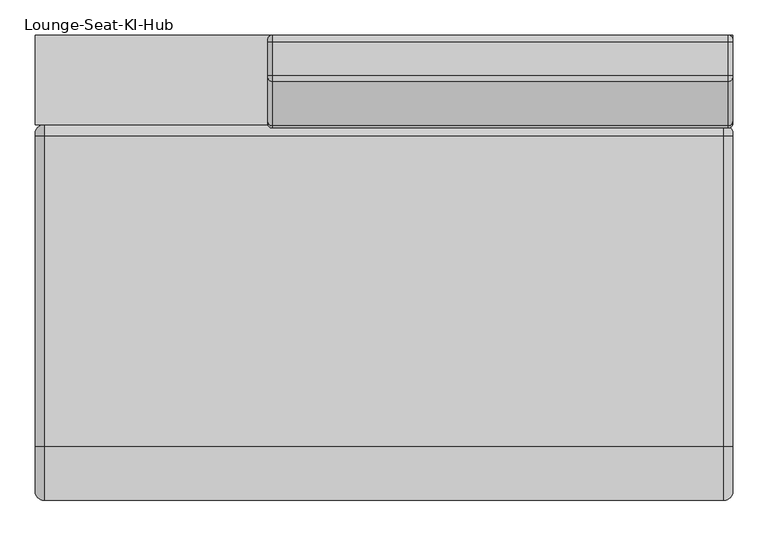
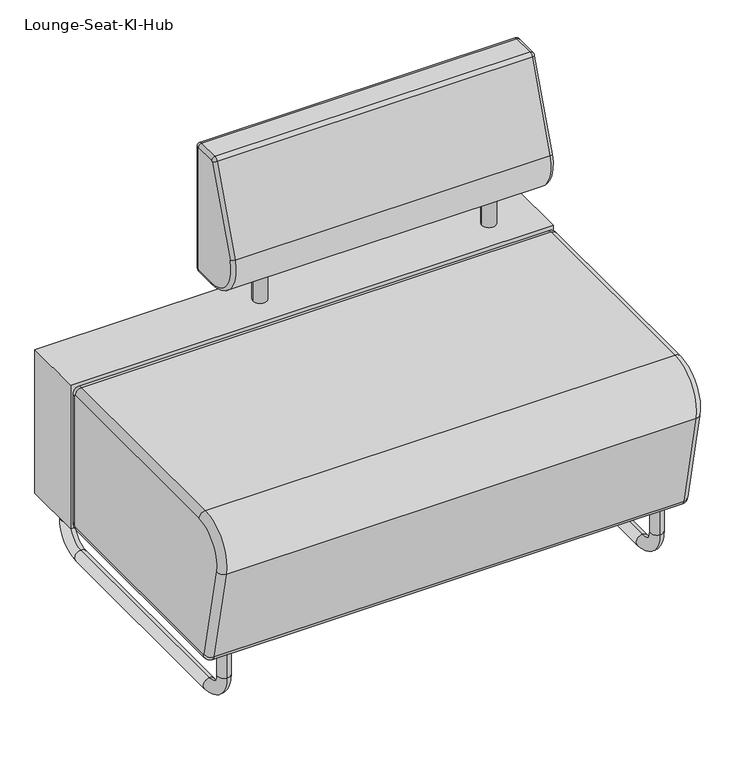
"""IFC4 building model written with IfcOpenShell, lengths in millimetres: furniture geometry."""

from ifc_helpers import new_model, si_unit, point, frame, frame_2d, origin, place, context, project, spatial, polyline, circle_curve, ellipse_curve, trimmed, segment, composite_curve, outline, extrude, source, transform, mapped, element, save
from ifc_brep_helpers import plane_surface, cylinder_surface, revolved_surface, advanced_brep


def lounge_seat_ki_hub_ef02d1cb(model_context):
    return source(origin(), model_context, "Body", "SolidModel", [
        extrude(outline(composite_curve([segment(trimmed(circle_curve(frame_2d((400.05, 266.7)), 14.2875), [point((385.7625, 266.7))], [point((414.3375, 266.7))], False, "CARTESIAN"), True, "CONTINUOUS"), segment(trimmed(circle_curve(frame_2d((400.05, 266.7)), 14.2875), [point((414.3375, 266.7))], [point((385.7625, 266.7))], False, "CARTESIAN"), True, "CONTINUOUS")], self_intersect=False)), frame((0.0, 0.0, 431.8), z_axis=(0.0, 0.0, 1.0), x_axis=(1.0, 0.0, 0.0)), (0.0, 0.0, 1.0), 63.5),
        extrude(outline(composite_curve([segment(trimmed(circle_curve(frame_2d((-69.85, 266.7)), 14.2875), [point((-84.1375, 266.7))], [point((-55.5625, 266.7))], False, "CARTESIAN"), True, "CONTINUOUS"), segment(trimmed(circle_curve(frame_2d((-69.85, 266.7)), 14.2875), [point((-55.5625, 266.7))], [point((-84.1375, 266.7))], False, "CARTESIAN"), True, "CONTINUOUS")], self_intersect=False)), frame((0.0, 0.0, 431.8), z_axis=(0.0, 0.0, 1.0), x_axis=(1.0, 0.0, 0.0)), (0.0, 0.0, 1.0), 63.5),
        advanced_brep(
        [(495.3, 274.6375, 495.3), (495.3, 207.4933705, 584.4032693), (488.95, 201.3893588, 586.1535665), (488.95, 274.6375, 488.95), (-158.75, 274.6375, 488.95), (-158.75, 201.3893588, 586.1535665), (-165.1, 207.4933705, 584.4032693), (-165.1, 274.6375, 495.3), (488.95, 320.675, 488.95), (495.3, 320.675, 495.3), (-165.1, 320.675, 495.3), (-158.75, 320.675, 488.95), (488.95, 330.2, 498.475), (495.3, 323.85, 498.475), (-165.1, 323.85, 498.475), (-158.75, 330.2, 498.475), (488.95, 330.2, 758.825), (495.3, 323.85, 758.825), (-165.1, 323.85, 758.825), (-158.75, 330.2, 758.825), (488.95, 320.675, 768.35), (495.3, 320.675, 762.0), (-165.1, 320.675, 762.0), (-158.75, 320.675, 768.35), (488.95, 273.6171173, 768.35), (495.3, 273.6171173, 762.0), (-165.1, 273.6171173, 762.0), (-158.75, 273.6171173, 768.35), (488.95, 264.88726, 762.6348842), (495.3, 270.7071649, 760.0949614), (-165.1, 270.7071649, 760.0949614), (-158.75, 264.88726, 762.6348842)],
        [
            (0, 1, circle_curve(frame((495.3, 274.6375, 565.15), z_axis=(-1.0, 0.0, 0.0), x_axis=(0.0, -0.9612616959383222, 0.2756373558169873)), 69.85)),
            (1, 2, circle_curve(frame((488.95, 207.4933705, 584.4032693), z_axis=(0.0, -0.2756373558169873, -0.9612616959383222), x_axis=(0.0, 0.9612616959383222, -0.2756373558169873)), 6.35)),
            (2, 3, circle_curve(frame((488.95, 274.6375, 565.15), z_axis=(1.0, 0.0, 0.0), x_axis=(0.0, -0.9612616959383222, 0.2756373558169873)), 76.2)),
            (3, 0, circle_curve(frame((488.95, 274.6375, 495.3), z_axis=(0.0, -1.0, 0.0), x_axis=(0.0, 0.0, 1.0)), 6.35)),
            (4, 5, circle_curve(frame((-158.75, 274.6375, 565.15), z_axis=(-1.0, 0.0, 0.0), x_axis=(0.0, -0.9612616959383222, 0.2756373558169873)), 76.2)),
            (5, 6, circle_curve(frame((-158.75, 207.4933705, 584.4032693), z_axis=(0.0, -0.2756373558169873, -0.9612616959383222), x_axis=(0.0, 0.9612616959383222, -0.2756373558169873)), 6.35)),
            (6, 7, circle_curve(frame((-165.1, 274.6375, 565.15), z_axis=(1.0, 0.0, 0.0), x_axis=(0.0, -0.9612616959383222, 0.2756373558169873)), 69.85)),
            (7, 4, circle_curve(frame((-158.75, 274.6375, 495.3), z_axis=(0.0, -1.0, 0.0), x_axis=(0.0, 0.0, 1.0)), 6.35)),
            (2, 5),
            (4, 3),
            (3, 8),
            (8, 9, circle_curve(frame((488.95, 320.675, 495.3), z_axis=(0.0, -1.0, 0.0), x_axis=(0.0, 0.0, 1.0)), 6.35)),
            (9, 0),
            (7, 10),
            (10, 11, circle_curve(frame((-158.75, 320.675, 495.3), z_axis=(0.0, -1.0, 0.0), x_axis=(0.0, 0.0, 1.0)), 6.35)),
            (11, 4),
            (11, 8),
            (8, 12, circle_curve(frame((488.95, 320.675, 498.475), z_axis=(1.0, 0.0, 0.0), x_axis=(0.0, 0.0, -1.0)), 9.525)),
            (12, 13, circle_curve(frame((488.95, 323.85, 498.475), z_axis=(0.0, -1.3642707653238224e-12, -1.0), x_axis=(0.0, -1.0, 1.3642707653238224e-12)), 6.35)),
            (13, 9, circle_curve(frame((495.3, 320.675, 498.475), z_axis=(-1.0, 0.0, 0.0), x_axis=(0.0, 0.0, -1.0)), 3.175)),
            (10, 14, circle_curve(frame((-165.1, 320.675, 498.475), z_axis=(1.0, 0.0, 0.0), x_axis=(0.0, 0.0, -1.0)), 3.175)),
            (14, 15, circle_curve(frame((-158.75, 323.85, 498.475), z_axis=(0.0, 0.0, -1.0), x_axis=(0.0, -1.0, 0.0)), 6.35)),
            (15, 11, circle_curve(frame((-158.75, 320.675, 498.475), z_axis=(-1.0, 0.0, 0.0), x_axis=(0.0, 0.0, -1.0)), 9.525)),
            (15, 12),
            (12, 16),
            (16, 17, circle_curve(frame((488.95, 323.85, 758.825), z_axis=(0.0, 0.0, -1.0), x_axis=(0.0, -1.0, 0.0)), 6.35)),
            (17, 13),
            (14, 18),
            (18, 19, circle_curve(frame((-158.75, 323.85, 758.825), z_axis=(0.0, 0.0, -1.0), x_axis=(0.0, -1.0, 0.0)), 6.35)),
            (19, 15),
            (19, 16),
            (16, 20, circle_curve(frame((488.95, 320.675, 758.825), z_axis=(1.0, 0.0, 0.0), x_axis=(0.0, 1.0, 0.0)), 9.525)),
            (20, 21, circle_curve(frame((488.95, 320.675, 762.0), z_axis=(0.0, 1.0, 0.0), x_axis=(0.0, 0.0, -1.0)), 6.35)),
            (21, 17, circle_curve(frame((495.3, 320.675, 758.825), z_axis=(-1.0, 0.0, 0.0), x_axis=(0.0, 1.0, 0.0)), 3.175)),
            (18, 22, circle_curve(frame((-165.1, 320.675, 758.825), z_axis=(1.0, 0.0, 0.0), x_axis=(0.0, 1.0, 0.0)), 3.175)),
            (22, 23, circle_curve(frame((-158.75, 320.675, 762.0), z_axis=(0.0, 1.0, 0.0), x_axis=(0.0, 0.0, -1.0)), 6.35)),
            (23, 19, circle_curve(frame((-158.75, 320.675, 758.825), z_axis=(-1.0, 0.0, 0.0), x_axis=(0.0, 1.0, 0.0)), 9.525)),
            (23, 20),
            (20, 24),
            (24, 25, circle_curve(frame((488.95, 273.6171173, 762.0), z_axis=(0.0, 1.0, 0.0), x_axis=(0.0, 0.0, -1.0)), 6.35)),
            (25, 21),
            (22, 26),
            (26, 27, circle_curve(frame((-158.75, 273.6171173, 762.0), z_axis=(0.0, 1.0, 0.0), x_axis=(0.0, 0.0, -1.0)), 6.35)),
            (27, 23),
            (27, 24),
            (24, 28, circle_curve(frame((488.95, 273.6171173, 758.825), z_axis=(1.0, 0.0, 0.0), x_axis=(0.0, 0.0, 1.0)), 9.525)),
            (28, 29, circle_curve(frame((488.95, 270.7071649, 760.0949614), z_axis=(0.0, 0.39998784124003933, 0.9165204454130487), x_axis=(0.0, 0.9165204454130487, -0.39998784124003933)), 6.35)),
            (29, 25, circle_curve(frame((495.3, 273.6171173, 758.825), z_axis=(-1.0, 0.0, 0.0), x_axis=(0.0, 0.0, 1.0)), 3.175)),
            (26, 30, circle_curve(frame((-165.1, 273.6171173, 758.825), z_axis=(1.0, 0.0, 0.0), x_axis=(0.0, 0.0, 1.0)), 3.175)),
            (30, 31, circle_curve(frame((-158.75, 270.7071649, 760.0949614), z_axis=(0.0, 0.3999878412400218, 0.9165204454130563), x_axis=(0.0, 0.9165204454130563, -0.3999878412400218)), 6.35)),
            (31, 27, circle_curve(frame((-158.75, 273.6171173, 758.825), z_axis=(-1.0, 0.0, 0.0), x_axis=(0.0, 0.0, 1.0)), 9.525)),
            (31, 28),
            (1, 29, circle_curve(frame((495.3, 1565.6359892, 194.9621402), z_axis=(-1.0, 0.0, 0.0), x_axis=(0.0, -0.9165204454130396, 0.39998784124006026)), 1412.875)),
            (28, 2, circle_curve(frame((488.95, 1565.6359892, 194.9621402), z_axis=(1.0, 0.0, 0.0), x_axis=(0.0, -0.9165204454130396, 0.39998784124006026)), 1419.225)),
            (6, 30, circle_curve(frame((-165.1, 1565.6359892, 194.9621402), z_axis=(-1.0, 0.0, 0.0), x_axis=(0.0, -0.9165204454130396, 0.39998784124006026)), 1412.875)),
            (5, 31, circle_curve(frame((-158.75, 1565.6359892, 194.9621402), z_axis=(-1.0, 0.0, 0.0), x_axis=(0.0, -0.9165204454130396, 0.39998784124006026)), 1419.225)),
        ],
        [
            revolved_surface(trimmed(ellipse_curve(frame((488.95, 207.4933705, 584.4032693), z_axis=(0.0, 0.2756373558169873, 0.9612616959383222), x_axis=(0.0, 0.9612616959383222, -0.2756373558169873)), 6.35, 6.35), [point((488.95, 201.3893588, 586.1535665))], [point((495.3, 207.4933705, 584.4032693))], True, "CARTESIAN"), (0.0, 274.6375, 565.15), (1.0, 0.0, 0.0)),
            revolved_surface(trimmed(ellipse_curve(frame((-158.75, 207.4933705, 584.4032693), z_axis=(0.0, 0.2756373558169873, 0.9612616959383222), x_axis=(0.0, 0.9612616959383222, -0.2756373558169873)), 6.35, 6.35), [point((-165.1, 207.4933705, 584.4032693))], [point((-158.75, 201.3893588, 586.1535665))], True, "CARTESIAN"), (0.0, 274.6375, 565.15), (1.0, 0.0, 0.0)),
            cylinder_surface(frame((0.0, 274.6375, 565.15), z_axis=(1.0, 0.0, 0.0), x_axis=(0.0, -0.9612616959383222, 0.2756373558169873)), 76.2),
            cylinder_surface(frame((488.95, 274.6375, 495.3), z_axis=(0.0, -1.0, 0.0), x_axis=(0.0, 0.0, 1.0)), 6.35),
            cylinder_surface(frame((-158.75, 274.6375, 495.3), z_axis=(0.0, -1.0, 0.0), x_axis=(0.0, 0.0, 1.0)), 6.35),
            plane_surface(frame((-158.75, 274.6375, 488.95), z_axis=(0.0, 0.0, -1.0), x_axis=(0.0, 1.0, 0.0))),
            revolved_surface(trimmed(ellipse_curve(frame((488.95, 320.675, 495.3), z_axis=(0.0, -1.0, 0.0), x_axis=(0.0, 0.0, 1.0)), 6.35, 6.35), [point((488.95, 320.675, 488.95))], [point((495.3, 320.675, 495.3))], True, "CARTESIAN"), (0.0, 320.675, 498.475), (1.0, 0.0, 0.0)),
            revolved_surface(trimmed(ellipse_curve(frame((-158.75, 320.675, 495.3), z_axis=(0.0, -1.0, 0.0), x_axis=(0.0, 0.0, 1.0)), 6.35, 6.35), [point((-165.1, 320.675, 495.3))], [point((-158.75, 320.675, 488.95))], True, "CARTESIAN"), (0.0, 320.675, 498.475), (1.0, 0.0, 0.0)),
            cylinder_surface(frame((0.0, 320.675, 498.475), z_axis=(1.0, 0.0, 0.0), x_axis=(0.0, 0.0, -1.0)), 9.525),
            cylinder_surface(frame((488.95, 323.85, 498.475), z_axis=(0.0, 0.0, -1.0), x_axis=(0.0, -1.0, 0.0)), 6.35),
            cylinder_surface(frame((-158.75, 323.85, 498.475), z_axis=(0.0, 0.0, -1.0), x_axis=(0.0, -1.0, 0.0)), 6.35),
            plane_surface(frame((-158.75, 330.2, 498.475), z_axis=(0.0, 1.0, 0.0), x_axis=(0.0, 0.0, 1.0))),
            revolved_surface(trimmed(ellipse_curve(frame((488.95, 323.85, 758.825), z_axis=(0.0, 0.0, -1.0), x_axis=(0.0, -1.0, 0.0)), 6.35, 6.35), [point((488.95, 330.2, 758.825))], [point((495.3, 323.85, 758.825))], True, "CARTESIAN"), (0.0, 320.675, 758.825), (1.0, 0.0, 0.0)),
            revolved_surface(trimmed(ellipse_curve(frame((-158.75, 323.85, 758.825), z_axis=(0.0, 0.0, -1.0), x_axis=(0.0, -1.0, 0.0)), 6.35, 6.35), [point((-165.1, 323.85, 758.825))], [point((-158.75, 330.2, 758.825))], True, "CARTESIAN"), (0.0, 320.675, 758.825), (1.0, 0.0, 0.0)),
            cylinder_surface(frame((0.0, 320.675, 758.825), z_axis=(1.0, 0.0, 0.0), x_axis=(0.0, 1.0, 0.0)), 9.525),
            cylinder_surface(frame((488.95, 320.675, 762.0), z_axis=(0.0, 1.0, 0.0), x_axis=(0.0, 0.0, -1.0)), 6.35),
            cylinder_surface(frame((-158.75, 320.675, 762.0), z_axis=(0.0, 1.0, 0.0), x_axis=(0.0, 0.0, -1.0)), 6.35),
            plane_surface(frame((-158.75, 320.675, 768.35), z_axis=(0.0, 0.0, 1.0), x_axis=(0.0, -1.0, 0.0))),
            revolved_surface(trimmed(ellipse_curve(frame((488.95, 273.6171173, 762.0), z_axis=(0.0, 1.0, 0.0), x_axis=(0.0, 0.0, -1.0)), 6.35, 6.35), [point((488.95, 273.6171173, 768.35))], [point((495.3, 273.6171173, 762.0))], True, "CARTESIAN"), (0.0, 273.6171173, 758.825), (1.0, 0.0, 0.0)),
            revolved_surface(trimmed(ellipse_curve(frame((-158.75, 273.6171173, 762.0), z_axis=(0.0, 1.0, 0.0), x_axis=(0.0, 0.0, -1.0)), 6.35, 6.35), [point((-165.1, 273.6171173, 762.0))], [point((-158.75, 273.6171173, 768.35))], True, "CARTESIAN"), (0.0, 273.6171173, 758.825), (1.0, 0.0, 0.0)),
            cylinder_surface(frame((0.0, 273.6171173, 758.825), z_axis=(1.0, 0.0, 0.0), x_axis=(0.0, 0.0, 1.0)), 9.525),
            revolved_surface(trimmed(ellipse_curve(frame((488.95, 270.7071649, 760.0949614), z_axis=(0.0, 0.39998784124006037, 0.9165204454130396), x_axis=(0.0, 0.9165204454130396, -0.39998784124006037)), 6.35, 6.35), [point((488.95, 264.88726, 762.6348842))], [point((495.3, 270.7071649, 760.0949614))], True, "CARTESIAN"), (0.0, 1565.6359892, 194.9621402), (1.0, 0.0, 0.0)),
            plane_surface(frame((495.3, 1565.6359892, 194.9621402), z_axis=(1.0, 0.0, 0.0), x_axis=(0.0, -0.9165204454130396, 0.39998784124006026))),
            plane_surface(frame((-165.1, 1565.6359892, 194.9621402), z_axis=(-1.0, 0.0, 0.0), x_axis=(0.0, -0.9165204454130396, 0.39998784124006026))),
            revolved_surface(trimmed(ellipse_curve(frame((-158.75, 270.7071649, 760.0949614), z_axis=(0.0, 0.39998784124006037, 0.9165204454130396), x_axis=(0.0, 0.9165204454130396, -0.39998784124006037)), 6.35, 6.35), [point((-165.1, 270.7071649, 760.0949614))], [point((-158.75, 264.88726, 762.6348842))], True, "CARTESIAN"), (0.0, 1565.6359892, 194.9621402), (1.0, 0.0, 0.0)),
            cylinder_surface(frame((0.0, 1565.6359892, 194.9621402), z_axis=(1.0, 0.0, 0.0), x_axis=(0.0, -0.9165204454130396, 0.39998784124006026)), 1419.225),
        ],
        [
            (0, [[1, 2, 3, 4]]),
            (1, [[5, 6, 7, 8]]),
            (2, [[-3, 9, -5, 10]]),
            (3, [[-4, 11, 12, 13]]),
            (4, [[-8, 14, 15, 16]]),
            (5, [[-10, -16, 17, -11]]),
            (6, [[-12, 18, 19, 20]]),
            (7, [[-15, 21, 22, 23]]),
            (8, [[-17, -23, 24, -18]]),
            (9, [[-19, 25, 26, 27]]),
            (10, [[-22, 28, 29, 30]]),
            (11, [[-24, -30, 31, -25]]),
            (12, [[-26, 32, 33, 34]]),
            (13, [[-29, 35, 36, 37]]),
            (14, [[-31, -37, 38, -32]]),
            (15, [[-33, 39, 40, 41]]),
            (16, [[-36, 42, 43, 44]]),
            (17, [[-38, -44, 45, -39]]),
            (18, [[-40, 46, 47, 48]]),
            (19, [[-43, 49, 50, 51]]),
            (20, [[-45, -51, 52, -46]]),
            (21, [[-2, 53, -47, 54]]),
            (22, [[-1, -13, -20, -27, -34, -41, -48, -53]]),
            (23, [[-7, 55, -49, -42, -35, -28, -21, -14]]),
            (24, [[-6, 56, -50, -55]]),
            (25, [[-9, -54, -52, -56]]),
        ],
    ),
        advanced_brep(
        [(444.5, -266.7, 120.65), (444.5, -241.3, 120.65), (444.5, -266.7, 63.5), (444.5, -241.3, 63.5), (444.5, -203.2, 25.4), (444.5, -203.2, 0.0), (444.5, 254.0, 0.0), (444.5, 254.0, 25.4), (444.5, 292.1, 63.5), (444.5, 317.5, 63.5), (444.5, 317.5, 120.65), (444.5, 292.1, 120.65)],
        [
            (0, 1, circle_curve(frame((444.5, -254.0, 120.65), z_axis=(0.0, 0.0, 1.0), x_axis=(0.0, 1.0, 0.0)), 12.7)),
            (1, 0, circle_curve(frame((444.5, -254.0, 120.65), z_axis=(0.0, 0.0, 1.0), x_axis=(0.0, 1.0, 0.0)), 12.7)),
            (0, 2),
            (2, 3, circle_curve(frame((444.5, -254.0, 63.5), z_axis=(0.0, 0.0, 1.0), x_axis=(0.0, 1.0, 0.0)), 12.7)),
            (3, 1),
            (3, 2, circle_curve(frame((444.5, -254.0, 63.5), z_axis=(0.0, 0.0, 1.0), x_axis=(0.0, 1.0, 0.0)), 12.7)),
            (4, 3, circle_curve(frame((444.5, -203.2, 63.5), z_axis=(-1.0, 0.0, 0.0), x_axis=(0.0, -1.0, 0.0)), 38.1)),
            (2, 5, circle_curve(frame((444.5, -203.2, 63.5), z_axis=(1.0, 0.0, 0.0), x_axis=(0.0, -1.0, 0.0)), 63.5)),
            (5, 4, circle_curve(frame((444.5, -203.2, 12.7), z_axis=(0.0, -1.0, 0.0), x_axis=(0.0, 0.0, 1.0)), 12.7)),
            (4, 5, circle_curve(frame((444.5, -203.2, 12.7), z_axis=(0.0, -1.0, 0.0), x_axis=(0.0, 0.0, 1.0)), 12.7)),
            (5, 6),
            (6, 7, circle_curve(frame((444.5, 254.0, 12.7), z_axis=(0.0, -1.0, 0.0), x_axis=(0.0, 0.0, 1.0)), 12.7)),
            (7, 4),
            (7, 6, circle_curve(frame((444.5, 254.0, 12.7), z_axis=(0.0, -1.0, 0.0), x_axis=(0.0, 0.0, 1.0)), 12.7)),
            (8, 7, circle_curve(frame((444.5, 254.0, 63.5), z_axis=(-1.0, 0.0, 0.0), x_axis=(0.0, 0.0, -1.0)), 38.1)),
            (6, 9, circle_curve(frame((444.5, 254.0, 63.5), z_axis=(1.0, 0.0, 0.0), x_axis=(0.0, 0.0, -1.0)), 63.5)),
            (9, 8, circle_curve(frame((444.5, 304.8, 63.5), z_axis=(0.0, 0.0, -1.0), x_axis=(0.0, -1.0, 0.0)), 12.7)),
            (8, 9, circle_curve(frame((444.5, 304.8, 63.5), z_axis=(0.0, 0.0, -1.0), x_axis=(0.0, -1.0, 0.0)), 12.7)),
            (10, 11, circle_curve(frame((444.5, 304.8, 120.65), z_axis=(0.0, 0.0, 1.0), x_axis=(0.0, -1.0, 0.0)), 12.7)),
            (11, 10, circle_curve(frame((444.5, 304.8, 120.65), z_axis=(0.0, 0.0, 1.0), x_axis=(0.0, -1.0, 0.0)), 12.7)),
            (9, 10),
            (11, 8),
        ],
        [
            plane_surface(frame((444.5, -254.0, 120.65), z_axis=(0.0, 0.0, 1.0), x_axis=(1.0, 0.0, 0.0))),
            cylinder_surface(frame((444.5, -254.0, 120.65), z_axis=(0.0, 0.0, 1.0), x_axis=(0.0, 1.0, 0.0)), 12.7),
            revolved_surface(trimmed(ellipse_curve(frame((444.5, -254.0, 63.5), z_axis=(0.0, 0.0, 1.0), x_axis=(0.0, 1.0, 0.0)), 12.7, 12.7), [point((444.5, -266.7, 63.5))], [point((444.5, -241.3, 63.5))], True, "CARTESIAN"), (444.5, -203.2, 63.5), (1.0, 0.0, 0.0)),
            revolved_surface(trimmed(ellipse_curve(frame((444.5, -254.0, 63.5), z_axis=(0.0, 0.0, 1.0), x_axis=(0.0, 1.0, 0.0)), 12.7, 12.7), [point((444.5, -241.3, 63.5))], [point((444.5, -266.7, 63.5))], True, "CARTESIAN"), (444.5, -203.2, 63.5), (1.0, 0.0, 0.0)),
            cylinder_surface(frame((444.5, -203.2, 12.7), z_axis=(0.0, -1.0, 0.0), x_axis=(0.0, 0.0, 1.0)), 12.7),
            revolved_surface(trimmed(ellipse_curve(frame((444.5, 254.0, 12.7), z_axis=(0.0, -1.0, 0.0), x_axis=(0.0, 0.0, 1.0)), 12.7, 12.7), [point((444.5, 254.0, 0.0))], [point((444.5, 254.0, 25.4))], True, "CARTESIAN"), (444.5, 254.0, 63.5), (1.0, 0.0, 0.0)),
            revolved_surface(trimmed(ellipse_curve(frame((444.5, 254.0, 12.7), z_axis=(0.0, -1.0, 0.0), x_axis=(0.0, 0.0, 1.0)), 12.7, 12.7), [point((444.5, 254.0, 25.4))], [point((444.5, 254.0, 0.0))], True, "CARTESIAN"), (444.5, 254.0, 63.5), (1.0, 0.0, 0.0)),
            plane_surface(frame((444.5, 304.8, 120.65), z_axis=(0.0, 0.0, 1.0), x_axis=(1.0, 0.0, 0.0))),
            cylinder_surface(frame((444.5, 304.8, 63.5), z_axis=(0.0, 0.0, -1.0), x_axis=(0.0, -1.0, 0.0)), 12.7),
        ],
        [
            (0, [[1, 2]]),
            (1, [[-1, 3, 4, 5]]),
            (1, [[-2, -5, 6, -3]]),
            (2, [[7, -4, 8, 9]]),
            (3, [[-8, -6, -7, 10]]),
            (4, [[-9, 11, 12, 13]]),
            (4, [[-10, -13, 14, -11]]),
            (5, [[15, -12, 16, 17]]),
            (6, [[-16, -14, -15, 18]]),
            (7, [[19, 20]]),
            (8, [[-17, 21, -20, 22]]),
            (8, [[-18, -22, -19, -21]]),
        ],
    ),
        advanced_brep(
        [(-444.5, -266.7, 120.65), (-444.5, -241.3, 120.65), (-444.5, -266.7, 63.5), (-444.5, -241.3, 63.5), (-444.5, -203.2, 25.4), (-444.5, -203.2, 0.0), (-444.5, 254.0, 0.0), (-444.5, 254.0, 25.4), (-444.5, 292.1, 63.5), (-444.5, 317.5, 63.5), (-444.5, 317.5, 120.65), (-444.5, 292.1, 120.65)],
        [
            (0, 1, circle_curve(frame((-444.5, -254.0, 120.65), z_axis=(0.0, 0.0, 1.0), x_axis=(0.0, 1.0, 0.0)), 12.7)),
            (1, 0, circle_curve(frame((-444.5, -254.0, 120.65), z_axis=(0.0, 0.0, 1.0), x_axis=(0.0, 1.0, 0.0)), 12.7)),
            (0, 2),
            (2, 3, circle_curve(frame((-444.5, -254.0, 63.5), z_axis=(0.0, 0.0, 1.0), x_axis=(0.0, 1.0, 0.0)), 12.7)),
            (3, 1),
            (3, 2, circle_curve(frame((-444.5, -254.0, 63.5), z_axis=(0.0, 0.0, 1.0), x_axis=(0.0, 1.0, 0.0)), 12.7)),
            (4, 3, circle_curve(frame((-444.5, -203.2, 63.5), z_axis=(-1.0, 0.0, 0.0), x_axis=(0.0, -1.0, 0.0)), 38.1)),
            (2, 5, circle_curve(frame((-444.5, -203.2, 63.5), z_axis=(1.0, 0.0, 0.0), x_axis=(0.0, -1.0, 0.0)), 63.5)),
            (5, 4, circle_curve(frame((-444.5, -203.2, 12.7), z_axis=(0.0, -1.0, 0.0), x_axis=(0.0, 0.0, 1.0)), 12.7)),
            (4, 5, circle_curve(frame((-444.5, -203.2, 12.7), z_axis=(0.0, -1.0, 0.0), x_axis=(0.0, 0.0, 1.0)), 12.7)),
            (5, 6),
            (6, 7, circle_curve(frame((-444.5, 254.0, 12.7), z_axis=(0.0, -1.0, 0.0), x_axis=(0.0, 0.0, 1.0)), 12.7)),
            (7, 4),
            (7, 6, circle_curve(frame((-444.5, 254.0, 12.7), z_axis=(0.0, -1.0, 0.0), x_axis=(0.0, 0.0, 1.0)), 12.7)),
            (8, 7, circle_curve(frame((-444.5, 254.0, 63.5), z_axis=(-1.0, 0.0, 0.0), x_axis=(0.0, 0.0, -1.0)), 38.1)),
            (6, 9, circle_curve(frame((-444.5, 254.0, 63.5), z_axis=(1.0, 0.0, 0.0), x_axis=(0.0, 0.0, -1.0)), 63.5)),
            (9, 8, circle_curve(frame((-444.5, 304.8, 63.5), z_axis=(0.0, 0.0, -1.0), x_axis=(0.0, -1.0, 0.0)), 12.7)),
            (8, 9, circle_curve(frame((-444.5, 304.8, 63.5), z_axis=(0.0, 0.0, -1.0), x_axis=(0.0, -1.0, 0.0)), 12.7)),
            (10, 11, circle_curve(frame((-444.5, 304.8, 120.65), z_axis=(0.0, 0.0, 1.0), x_axis=(0.0, -1.0, 0.0)), 12.7)),
            (11, 10, circle_curve(frame((-444.5, 304.8, 120.65), z_axis=(0.0, 0.0, 1.0), x_axis=(0.0, -1.0, 0.0)), 12.7)),
            (9, 10),
            (11, 8),
        ],
        [
            plane_surface(frame((-444.5, -254.0, 120.65), z_axis=(0.0, 0.0, 1.0), x_axis=(1.0, 0.0, 0.0))),
            cylinder_surface(frame((-444.5, -254.0, 120.65), z_axis=(0.0, 0.0, 1.0), x_axis=(0.0, 1.0, 0.0)), 12.7),
            revolved_surface(trimmed(ellipse_curve(frame((-444.5, -254.0, 63.5), z_axis=(0.0, 0.0, 1.0), x_axis=(0.0, 1.0, 0.0)), 12.7, 12.7), [point((-444.5, -266.7, 63.5))], [point((-444.5, -241.3, 63.5))], True, "CARTESIAN"), (-444.5, -203.2, 63.5), (1.0, 0.0, 0.0)),
            revolved_surface(trimmed(ellipse_curve(frame((-444.5, -254.0, 63.5), z_axis=(0.0, 0.0, 1.0), x_axis=(0.0, 1.0, 0.0)), 12.7, 12.7), [point((-444.5, -241.3, 63.5))], [point((-444.5, -266.7, 63.5))], True, "CARTESIAN"), (-444.5, -203.2, 63.5), (1.0, 0.0, 0.0)),
            cylinder_surface(frame((-444.5, -203.2, 12.7), z_axis=(0.0, -1.0, 0.0), x_axis=(0.0, 0.0, 1.0)), 12.7),
            revolved_surface(trimmed(ellipse_curve(frame((-444.5, 254.0, 12.7), z_axis=(0.0, -1.0, 0.0), x_axis=(0.0, 0.0, 1.0)), 12.7, 12.7), [point((-444.5, 254.0, 0.0))], [point((-444.5, 254.0, 25.4))], True, "CARTESIAN"), (-444.5, 254.0, 63.5), (1.0, 0.0, 0.0)),
            revolved_surface(trimmed(ellipse_curve(frame((-444.5, 254.0, 12.7), z_axis=(0.0, -1.0, 0.0), x_axis=(0.0, 0.0, 1.0)), 12.7, 12.7), [point((-444.5, 254.0, 25.4))], [point((-444.5, 254.0, 0.0))], True, "CARTESIAN"), (-444.5, 254.0, 63.5), (1.0, 0.0, 0.0)),
            plane_surface(frame((-444.5, 304.8, 120.65), z_axis=(0.0, 0.0, 1.0), x_axis=(1.0, 0.0, 0.0))),
            cylinder_surface(frame((-444.5, 304.8, 63.5), z_axis=(0.0, 0.0, -1.0), x_axis=(0.0, -1.0, 0.0)), 12.7),
        ],
        [
            (0, [[1, 2]]),
            (1, [[-1, 3, 4, 5]]),
            (1, [[-2, -5, 6, -3]]),
            (2, [[7, -4, 8, 9]]),
            (3, [[-8, -6, -7, 10]]),
            (4, [[-9, 11, 12, 13]]),
            (4, [[-10, -13, 14, -11]]),
            (5, [[15, -12, 16, 17]]),
            (6, [[-16, -14, -15, 18]]),
            (7, [[19, 20]]),
            (8, [[-17, 21, -20, 22]]),
            (8, [[-18, -22, -19, -21]]),
        ],
    ),
        extrude(outline(polyline([(495.3, 330.2), (495.3, 203.2), (-495.3, 203.2), (-495.3, 330.2), (495.3, 330.2)])), frame((0.0, 0.0, 120.65), z_axis=(0.0, 0.0, 1.0), x_axis=(1.0, 0.0, 0.0)), (0.0, 0.0, 1.0), 311.15),
        advanced_brep(
        [(495.3, -316.1123726, 342.3976076), (495.3, -254.0, 419.1), (482.6, -254.0, 431.8), (482.6, -328.5348472, 339.7571292), (-482.6, -328.5348472, 339.7571292), (-482.6, -254.0, 431.8), (-495.3, -254.0, 419.1), (-495.3, -316.1123726, 342.3976076), (482.6, -284.6349608, 133.2244019), (495.3, -272.2124863, 135.8648804), (-495.3, -272.2124863, 135.8648804), (-482.6, -284.6349608, 133.2244019), (482.6, -269.1068676, 120.65), (495.3, -269.1068676, 133.35), (-495.3, -269.1068676, 133.35), (-482.6, -269.1068676, 120.65), (482.6, 187.325, 120.65), (495.3, 187.325, 133.35), (-495.3, 187.325, 133.35), (-482.6, 187.325, 120.65), (482.6, 203.2, 136.525), (495.3, 190.5, 136.525), (-495.3, 190.5, 136.525), (-482.6, 203.2, 136.525), (482.6, 203.2, 415.925), (495.3, 190.5, 415.925), (-495.3, 190.5, 415.925), (-482.6, 203.2, 415.925), (482.6, 187.325, 431.8), (495.3, 187.325, 419.1), (-495.3, 187.325, 419.1), (-482.6, 187.325, 431.8)],
        [
            (0, 1, circle_curve(frame((495.3, -254.0, 355.6), z_axis=(-1.0, 0.0, 0.0), x_axis=(0.0, 0.0, 1.0)), 63.5)),
            (1, 2, circle_curve(frame((482.6, -254.0, 419.1), z_axis=(0.0, -1.0, 0.0), x_axis=(0.0, 0.0, -1.0)), 12.7)),
            (2, 3, circle_curve(frame((482.6, -254.0, 355.6), z_axis=(1.0, 0.0, 0.0), x_axis=(0.0, 0.0, 1.0)), 76.2)),
            (3, 0, circle_curve(frame((482.6, -316.1123726, 342.3976076), z_axis=(0.0, -0.20791169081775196, 0.9781476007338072), x_axis=(0.0, 0.9781476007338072, 0.20791169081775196)), 12.7)),
            (4, 5, circle_curve(frame((-482.6, -254.0, 355.6), z_axis=(-1.0, 0.0, 0.0), x_axis=(0.0, 0.0, 1.0)), 76.2)),
            (5, 6, circle_curve(frame((-482.6, -254.0, 419.1), z_axis=(0.0, -1.0, 0.0), x_axis=(0.0, 0.0, -1.0)), 12.7)),
            (6, 7, circle_curve(frame((-495.3, -254.0, 355.6), z_axis=(1.0, 0.0, 0.0), x_axis=(0.0, 0.0, 1.0)), 63.5)),
            (7, 4, circle_curve(frame((-482.6, -316.1123726, 342.3976076), z_axis=(0.0, -0.20791169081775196, 0.9781476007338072), x_axis=(0.0, 0.9781476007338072, 0.20791169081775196)), 12.7)),
            (2, 5),
            (4, 3),
            (3, 8),
            (8, 9, circle_curve(frame((482.6, -272.2124863, 135.8648804), z_axis=(0.0, -0.2079116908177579, 0.978147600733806), x_axis=(0.0, 0.978147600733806, 0.2079116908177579)), 12.7)),
            (9, 0),
            (7, 10),
            (10, 11, circle_curve(frame((-482.6, -272.2124863, 135.8648804), z_axis=(0.0, -0.2079116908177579, 0.978147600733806), x_axis=(0.0, 0.978147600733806, 0.2079116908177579)), 12.7)),
            (11, 4),
            (11, 8),
            (8, 12, circle_curve(frame((482.6, -269.1068676, 136.525), z_axis=(1.0, 0.0, 0.0), x_axis=(0.0, -0.9781476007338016, -0.2079116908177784)), 15.875)),
            (12, 13, circle_curve(frame((482.6, -269.1068676, 133.35), z_axis=(0.0, -1.0, 0.0), x_axis=(0.0, 0.0, 1.0)), 12.7)),
            (13, 9, circle_curve(frame((495.3, -269.1068676, 136.525), z_axis=(-1.0, 0.0, 0.0), x_axis=(0.0, -0.9781476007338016, -0.2079116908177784)), 3.175)),
            (10, 14, circle_curve(frame((-495.3, -269.1068676, 136.525), z_axis=(1.0, 0.0, 0.0), x_axis=(0.0, -0.9781476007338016, -0.2079116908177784)), 3.175)),
            (14, 15, circle_curve(frame((-482.6, -269.1068676, 133.35), z_axis=(0.0, -1.0, 0.0), x_axis=(0.0, 0.0, 1.0)), 12.7)),
            (15, 11, circle_curve(frame((-482.6, -269.1068676, 136.525), z_axis=(-1.0, 0.0, 0.0), x_axis=(0.0, -0.9781476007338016, -0.2079116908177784)), 15.875)),
            (15, 12),
            (12, 16),
            (16, 17, circle_curve(frame((482.6, 187.325, 133.35), z_axis=(0.0, -1.0, 0.0), x_axis=(0.0, 0.0, 1.0)), 12.7)),
            (17, 13),
            (14, 18),
            (18, 19, circle_curve(frame((-482.6, 187.325, 133.35), z_axis=(0.0, -1.0, 0.0), x_axis=(0.0, 0.0, 1.0)), 12.7)),
            (19, 15),
            (19, 16),
            (16, 20, circle_curve(frame((482.6, 187.325, 136.525), z_axis=(1.0, 0.0, 0.0), x_axis=(0.0, 0.0, -1.0)), 15.875)),
            (20, 21, circle_curve(frame((482.6, 190.5, 136.525), z_axis=(0.0, 0.0, -1.0), x_axis=(0.0, -1.0, 0.0)), 12.7)),
            (21, 17, circle_curve(frame((495.3, 187.325, 136.525), z_axis=(-1.0, 0.0, 0.0), x_axis=(0.0, 0.0, -1.0)), 3.175)),
            (18, 22, circle_curve(frame((-495.3, 187.325, 136.525), z_axis=(1.0, 0.0, 0.0), x_axis=(0.0, 0.0, -1.0)), 3.175)),
            (22, 23, circle_curve(frame((-482.6, 190.5, 136.525), z_axis=(0.0, 0.0, -1.0), x_axis=(0.0, -1.0, 0.0)), 12.7)),
            (23, 19, circle_curve(frame((-482.6, 187.325, 136.525), z_axis=(-1.0, 0.0, 0.0), x_axis=(0.0, 0.0, -1.0)), 15.875)),
            (23, 20),
            (20, 24),
            (24, 25, circle_curve(frame((482.6, 190.5, 415.925), z_axis=(0.0, 0.0, -1.0), x_axis=(0.0, -1.0, 0.0)), 12.7)),
            (25, 21),
            (22, 26),
            (26, 27, circle_curve(frame((-482.6, 190.5, 415.925), z_axis=(0.0, 0.0, -1.0), x_axis=(0.0, -1.0, 0.0)), 12.7)),
            (27, 23),
            (27, 24),
            (24, 28, circle_curve(frame((482.6, 187.325, 415.925), z_axis=(1.0, 0.0, 0.0), x_axis=(0.0, 1.0, 0.0)), 15.875)),
            (28, 29, circle_curve(frame((482.6, 187.325, 419.1), z_axis=(0.0, 1.0, 0.0), x_axis=(0.0, 0.0, -1.0)), 12.7)),
            (29, 25, circle_curve(frame((495.3, 187.325, 415.925), z_axis=(-1.0, 0.0, 0.0), x_axis=(0.0, 1.0, 0.0)), 3.175)),
            (26, 30, circle_curve(frame((-495.3, 187.325, 415.925), z_axis=(1.0, 0.0, 0.0), x_axis=(0.0, 1.0, 0.0)), 3.175)),
            (30, 31, circle_curve(frame((-482.6, 187.325, 419.1), z_axis=(0.0, 1.0, 0.0), x_axis=(0.0, 0.0, -1.0)), 12.7)),
            (31, 27, circle_curve(frame((-482.6, 187.325, 415.925), z_axis=(-1.0, 0.0, 0.0), x_axis=(0.0, 1.0, 0.0)), 15.875)),
            (31, 28),
            (1, 29),
            (28, 2),
            (6, 30),
            (5, 31),
        ],
        [
            revolved_surface(trimmed(ellipse_curve(frame((482.6, -254.0, 419.1), z_axis=(0.0, 1.0, 0.0), x_axis=(0.0, 0.0, -1.0)), 12.7, 12.7), [point((482.6, -254.0, 431.8))], [point((495.3, -254.0, 419.1))], True, "CARTESIAN"), (0.0, -254.0, 355.6), (1.0, 0.0, 0.0)),
            revolved_surface(trimmed(ellipse_curve(frame((-482.6, -254.0, 419.1), z_axis=(0.0, 1.0, 0.0), x_axis=(0.0, 0.0, -1.0)), 12.7, 12.7), [point((-495.3, -254.0, 419.1))], [point((-482.6, -254.0, 431.8))], True, "CARTESIAN"), (0.0, -254.0, 355.6), (1.0, 0.0, 0.0)),
            cylinder_surface(frame((0.0, -254.0, 355.6), z_axis=(1.0, 0.0, 0.0), x_axis=(0.0, 0.0, 1.0)), 76.2),
            cylinder_surface(frame((482.6, -316.1123726, 342.3976076), z_axis=(0.0, -0.2079116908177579, 0.978147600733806), x_axis=(0.0, 0.978147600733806, 0.2079116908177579)), 12.7),
            cylinder_surface(frame((-482.6, -316.1123726, 342.3976076), z_axis=(0.0, -0.2079116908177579, 0.978147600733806), x_axis=(0.0, 0.978147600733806, 0.2079116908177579)), 12.7),
            plane_surface(frame((-482.6, -328.5348472, 339.7571292), z_axis=(0.0, -0.978147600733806, -0.20791169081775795), x_axis=(0.0, 0.20791169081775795, -0.978147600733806))),
            revolved_surface(trimmed(ellipse_curve(frame((482.6, -272.2124863, 135.8648804), z_axis=(0.0, -0.2079116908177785, 0.9781476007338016), x_axis=(0.0, 0.9781476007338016, 0.2079116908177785)), 12.7, 12.7), [point((482.6, -284.6349608, 133.2244019))], [point((495.3, -272.2124863, 135.8648804))], True, "CARTESIAN"), (0.0, -269.1068676, 136.525), (1.0, 0.0, 0.0)),
            revolved_surface(trimmed(ellipse_curve(frame((-482.6, -272.2124863, 135.8648804), z_axis=(0.0, -0.2079116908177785, 0.9781476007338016), x_axis=(0.0, 0.9781476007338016, 0.2079116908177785)), 12.7, 12.7), [point((-495.3, -272.2124863, 135.8648804))], [point((-482.6, -284.6349608, 133.2244019))], True, "CARTESIAN"), (0.0, -269.1068676, 136.525), (1.0, 0.0, 0.0)),
            cylinder_surface(frame((0.0, -269.1068676, 136.525), z_axis=(1.0, 0.0, 0.0), x_axis=(0.0, -0.9781476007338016, -0.2079116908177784)), 15.875),
            cylinder_surface(frame((482.6, -269.1068676, 133.35), z_axis=(0.0, -1.0, 0.0), x_axis=(0.0, 0.0, 1.0)), 12.7),
            cylinder_surface(frame((-482.6, -269.1068676, 133.35), z_axis=(0.0, -1.0, 0.0), x_axis=(0.0, 0.0, 1.0)), 12.7),
            plane_surface(frame((-482.6, -269.1068676, 120.65), z_axis=(0.0, 0.0, -1.0), x_axis=(0.0, 1.0, 0.0))),
            revolved_surface(trimmed(ellipse_curve(frame((482.6, 187.325, 133.35), z_axis=(0.0, -1.0, 0.0), x_axis=(0.0, 0.0, 1.0)), 12.7, 12.7), [point((482.6, 187.325, 120.65))], [point((495.3, 187.325, 133.35))], True, "CARTESIAN"), (0.0, 187.325, 136.525), (1.0, 0.0, 0.0)),
            revolved_surface(trimmed(ellipse_curve(frame((-482.6, 187.325, 133.35), z_axis=(0.0, -1.0, 0.0), x_axis=(0.0, 0.0, 1.0)), 12.7, 12.7), [point((-495.3, 187.325, 133.35))], [point((-482.6, 187.325, 120.65))], True, "CARTESIAN"), (0.0, 187.325, 136.525), (1.0, 0.0, 0.0)),
            cylinder_surface(frame((0.0, 187.325, 136.525), z_axis=(1.0, 0.0, 0.0), x_axis=(0.0, 0.0, -1.0)), 15.875),
            cylinder_surface(frame((482.6, 190.5, 136.525), z_axis=(0.0, 0.0, -1.0), x_axis=(0.0, -1.0, 0.0)), 12.7),
            cylinder_surface(frame((-482.6, 190.5, 136.525), z_axis=(0.0, 0.0, -1.0), x_axis=(0.0, -1.0, 0.0)), 12.7),
            plane_surface(frame((-482.6, 203.2, 136.525), z_axis=(0.0, 1.0, 0.0), x_axis=(0.0, 0.0, 1.0))),
            revolved_surface(trimmed(ellipse_curve(frame((482.6, 190.5, 415.925), z_axis=(0.0, 0.0, -1.0), x_axis=(0.0, -1.0, 0.0)), 12.7, 12.7), [point((482.6, 203.2, 415.925))], [point((495.3, 190.5, 415.925))], True, "CARTESIAN"), (0.0, 187.325, 415.925), (1.0, 0.0, 0.0)),
            revolved_surface(trimmed(ellipse_curve(frame((-482.6, 190.5, 415.925), z_axis=(0.0, 0.0, -1.0), x_axis=(0.0, -1.0, 0.0)), 12.7, 12.7), [point((-495.3, 190.5, 415.925))], [point((-482.6, 203.2, 415.925))], True, "CARTESIAN"), (0.0, 187.325, 415.925), (1.0, 0.0, 0.0)),
            cylinder_surface(frame((0.0, 187.325, 415.925), z_axis=(1.0, 0.0, 0.0), x_axis=(0.0, 1.0, 0.0)), 15.875),
            cylinder_surface(frame((482.6, 187.325, 419.1), z_axis=(0.0, 1.0, 0.0), x_axis=(0.0, 0.0, -1.0)), 12.7),
            plane_surface(frame((495.3, 187.325, 419.1), z_axis=(1.0, 0.0, 0.0), x_axis=(0.0, -1.0, 0.0))),
            plane_surface(frame((-495.3, 187.325, 418.30625), z_axis=(-1.0, 0.0, 0.0), x_axis=(0.0, -1.0, 0.0))),
            cylinder_surface(frame((-482.6, 187.325, 419.1), z_axis=(0.0, 1.0, 0.0), x_axis=(0.0, 0.0, -1.0)), 12.7),
            plane_surface(frame((-482.6, 187.325, 431.8), z_axis=(0.0, 0.0, 1.0), x_axis=(0.0, -1.0, 0.0))),
        ],
        [
            (0, [[1, 2, 3, 4]]),
            (1, [[5, 6, 7, 8]]),
            (2, [[-3, 9, -5, 10]]),
            (3, [[-4, 11, 12, 13]]),
            (4, [[-8, 14, 15, 16]]),
            (5, [[-10, -16, 17, -11]]),
            (6, [[-12, 18, 19, 20]]),
            (7, [[-15, 21, 22, 23]]),
            (8, [[-17, -23, 24, -18]]),
            (9, [[-19, 25, 26, 27]]),
            (10, [[-22, 28, 29, 30]]),
            (11, [[-24, -30, 31, -25]]),
            (12, [[-26, 32, 33, 34]]),
            (13, [[-29, 35, 36, 37]]),
            (14, [[-31, -37, 38, -32]]),
            (15, [[-33, 39, 40, 41]]),
            (16, [[-36, 42, 43, 44]]),
            (17, [[-38, -44, 45, -39]]),
            (18, [[-40, 46, 47, 48]]),
            (19, [[-43, 49, 50, 51]]),
            (20, [[-45, -51, 52, -46]]),
            (21, [[-2, 53, -47, 54]]),
            (22, [[-1, -13, -20, -27, -34, -41, -48, -53]]),
            (23, [[-7, 55, -49, -42, -35, -28, -21, -14]]),
            (24, [[-6, 56, -50, -55]]),
            (25, [[-9, -54, -52, -56]]),
        ],
    ),
    ])


if __name__ == "__main__":
    model = new_model("IFC4")
    model_context = context("Model", 3, world=origin())
    ifc_project = project(units=[si_unit("LENGTHUNIT", "METRE", prefix="MILLI")], contexts=[model_context])
    site = spatial("IfcSite", under=ifc_project)
    building = spatial("IfcBuilding", under=site)
    placement = place(None, origin())
    lounge_seat_ki_hub_shape = lounge_seat_ki_hub_ef02d1cb(model_context)
    element("IfcFurniture", 1, ObjectType="Lounge-Seat-KI-Hub : 39\"W, Laminate, Contrast, Back R", at=placement, inside=building, context=model_context, shape_type="MappedRepresentation", body=[
        mapped(lounge_seat_ki_hub_shape, transform((0.0, 0.0, 0.0), x_axis=(1.0, 0.0, 0.0), y_axis=(0.0, 1.0, 0.0), z_axis=(0.0, 0.0, 1.0))),
    ])
    save(model, "model.ifc")
